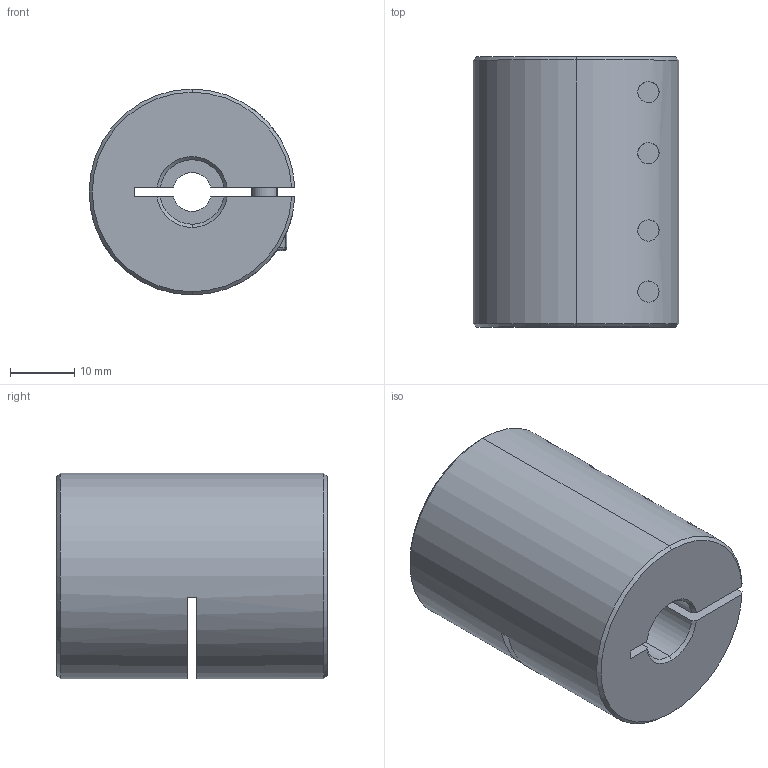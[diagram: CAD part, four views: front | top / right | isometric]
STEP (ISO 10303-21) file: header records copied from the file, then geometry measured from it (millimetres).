
FILE_DESCRIPTION (( 'STEP AP203' ), '1' );
FILE_NAME ('LL-B-D32L42-6-10.STEP', '2021-11-05T07:34:43', ( '' ), ( '' ), 'SwSTEP 2.0', 'SolidWorks 2018', '' );
FILE_SCHEMA (( 'CONFIG_CONTROL_DESIGN' ));
Length unit declared in the file: millimetre
Products named in the file (1): LL-B-D32L42-6-10
Bounding box: 31.98 x 42 x 32 mm (x, y, z)
Volume: 28990.9 mm3; surface area: 10307.7 mm2
Topology: 1 solids, 1 shells, 193 faces, 492 edges, 309 vertices
Faces by surface type: plane 88, cylinder 77, cone 20, torus 8
Entity records: 6376 total; most frequent: CARTESIAN_POINT 1559, DIRECTION 1037, ORIENTED_EDGE 968, EDGE_CURVE 484, AXIS2_PLACEMENT_3D 403, VERTEX_POINT 309, VECTOR 231, LINE 231
